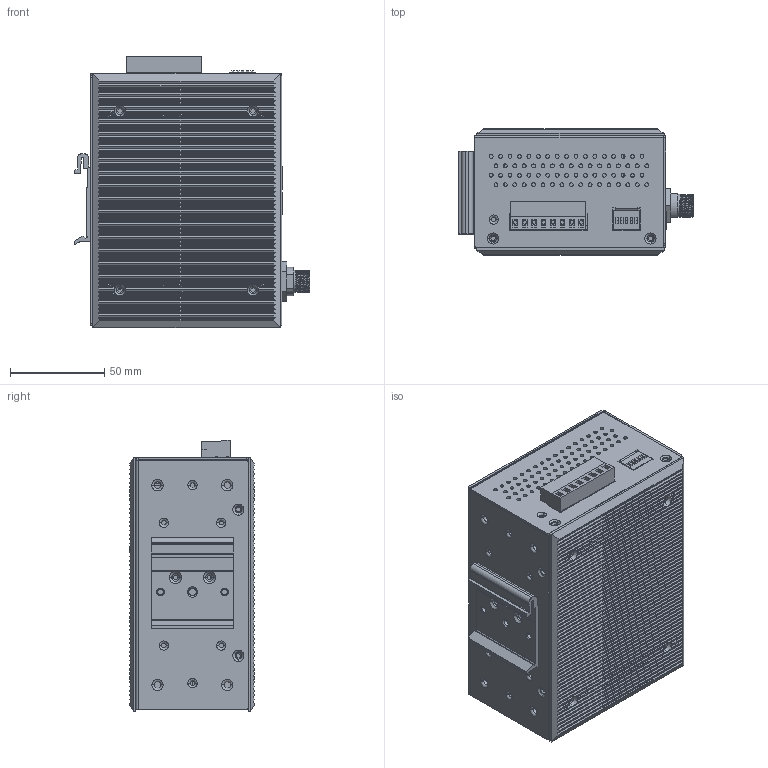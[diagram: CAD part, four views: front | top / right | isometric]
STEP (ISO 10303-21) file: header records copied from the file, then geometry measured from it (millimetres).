
FILE_DESCRIPTION((''),'2;1');
FILE_NAME('PTC-101-M12_3D','2013-12-29T',('Vincent_Huang'),(''),'PRO/ENGINEER BY PARAMETRIC TECHNOLOGY CORPORATION, 2004320','PRO/ENGINEER BY PARAMETRIC TECHNOLOGY CORPORATION, 2004320','');
FILE_SCHEMA(('CONFIG_CONTROL_DESIGN'));
Products named in the file (1): PTC-101-M12_3D
Bounding box: 125 x 66.74 x 144.15 mm (x, y, z)
Surface area: 271764.2 mm2 (no closed solid volume)
Topology: 0 solids, 38 shells, 2762 faces, 7270 edges, 4733 vertices
Faces by surface type: plane 1417, cylinder 1199, torus 90, cone 41, bspline 15
Entity records: 88261 total; most frequent: CARTESIAN_POINT 18592, ORIENTED_EDGE 14540, DIRECTION 14237, EDGE_CURVE 7270, AXIS2_PLACEMENT_3D 4959, VERTEX_POINT 4733, VECTOR 4319, LINE 4319
